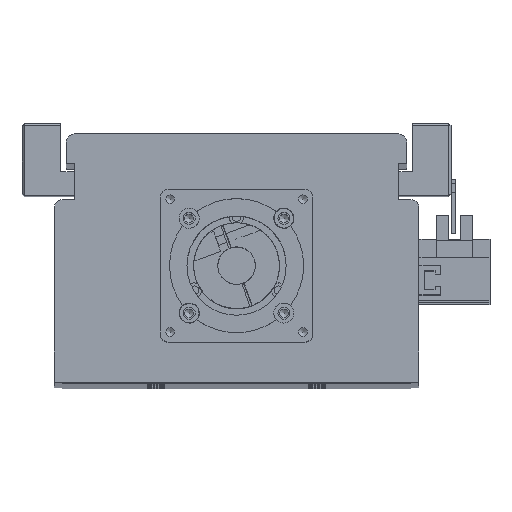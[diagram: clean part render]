
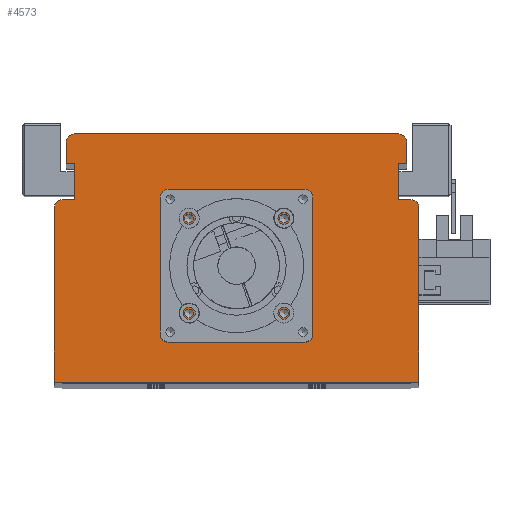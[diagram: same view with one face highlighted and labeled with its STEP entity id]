
A CAD part, top view. The second image highlights one B-rep face of the part: STEP entity #4573.
In plain terms, the highlighted planar face has unit normal (0, 0, 1).
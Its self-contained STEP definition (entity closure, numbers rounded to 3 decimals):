
#3131=CARTESIAN_POINT('',(19.321,61.5,1195.0));
#3132=VERTEX_POINT('',#3131);
#3133=CARTESIAN_POINT('',(17.7,61.5,1195.0));
#3134=DIRECTION('',(0.0,0.0,-1.0));
#3135=DIRECTION('',(1.0,0.0,0.0));
#3136=AXIS2_PLACEMENT_3D('',#3133,#3134,#3135);
#3137=CIRCLE('',#3136,1.621);
#3138=EDGE_CURVE('',#3132,#3132,#3137,.T.);
#3210=CARTESIAN_POINT('',(19.321,26.1,1195.0));
#3211=VERTEX_POINT('',#3210);
#3212=CARTESIAN_POINT('',(17.7,26.1,1195.0));
#3213=DIRECTION('',(0.0,0.0,-1.0));
#3214=DIRECTION('',(1.0,0.0,0.0));
#3215=AXIS2_PLACEMENT_3D('',#3212,#3213,#3214);
#3216=CIRCLE('',#3215,1.621);
#3217=EDGE_CURVE('',#3211,#3211,#3216,.T.);
#3289=CARTESIAN_POINT('',(-16.079,26.1,1195.0));
#3290=VERTEX_POINT('',#3289);
#3291=CARTESIAN_POINT('',(-17.7,26.1,1195.0));
#3292=DIRECTION('',(0.0,0.0,-1.0));
#3293=DIRECTION('',(1.0,0.0,0.0));
#3294=AXIS2_PLACEMENT_3D('',#3291,#3292,#3293);
#3295=CIRCLE('',#3294,1.621);
#3296=EDGE_CURVE('',#3290,#3290,#3295,.T.);
#3368=CARTESIAN_POINT('',(-16.079,61.5,1195.0));
#3369=VERTEX_POINT('',#3368);
#3370=CARTESIAN_POINT('',(-17.7,61.5,1195.0));
#3371=DIRECTION('',(0.0,0.0,-1.0));
#3372=DIRECTION('',(1.0,0.0,0.0));
#3373=AXIS2_PLACEMENT_3D('',#3370,#3371,#3372);
#3374=CIRCLE('',#3373,1.621);
#3375=EDGE_CURVE('',#3369,#3369,#3374,.T.);
#3409=CARTESIAN_POINT('',(26.5,43.8,1195.0));
#3410=VERTEX_POINT('',#3409);
#3411=CARTESIAN_POINT('',(24.5,43.8,1195.0));
#3412=DIRECTION('',(0.0,0.0,-1.0));
#3413=DIRECTION('',(1.0,0.0,0.0));
#3414=AXIS2_PLACEMENT_3D('',#3411,#3412,#3413);
#3415=CIRCLE('',#3414,2.0);
#3416=EDGE_CURVE('',#3410,#3410,#3415,.T.);
#3458=CARTESIAN_POINT('',(-22.5,43.8,1195.0));
#3459=VERTEX_POINT('',#3458);
#3460=CARTESIAN_POINT('',(-24.5,43.8,1195.0));
#3461=DIRECTION('',(0.0,0.0,-1.0));
#3462=DIRECTION('',(1.0,0.0,0.0));
#3463=AXIS2_PLACEMENT_3D('',#3460,#3461,#3462);
#3464=CIRCLE('',#3463,2.0);
#3465=EDGE_CURVE('',#3459,#3459,#3464,.T.);
#4389=CARTESIAN_POINT('',(21.05,43.8,1195.0));
#4390=VERTEX_POINT('',#4389);
#4391=CARTESIAN_POINT('',(0.0,43.8,1195.0));
#4392=DIRECTION('',(0.0,0.0,-1.0));
#4393=DIRECTION('',(-1.0,0.0,0.0));
#4394=AXIS2_PLACEMENT_3D('',#4391,#4392,#4393);
#4395=CIRCLE('',#4394,21.05);
#4396=EDGE_CURVE('',#4390,#4390,#4395,.T.);
#4413=CARTESIAN_POINT('',(0.,29.533,1195.0));
#4414=DIRECTION('',(0.0,0.0,1.0));
#4415=DIRECTION('',(1.0,0.0,0.0));
#4416=AXIS2_PLACEMENT_3D('',#4413,#4414,#4415);
#4417=PLANE('',#4416);
#4418=CARTESIAN_POINT('',(-65.,68.5,1195.0));
#4419=VERTEX_POINT('',#4418);
#4420=CARTESIAN_POINT('',(-60.5,68.5,1195.));
#4421=VERTEX_POINT('',#4420);
#4422=CARTESIAN_POINT('',(-65.,68.5,1195.0));
#4423=DIRECTION('',(1.0,0.0,0.0));
#4424=VECTOR('',#4423,4.5);
#4425=LINE('',#4422,#4424);
#4426=EDGE_CURVE('',#4419,#4421,#4425,.T.);
#4427=ORIENTED_EDGE('',*,*,#4426,.F.);
#4428=CARTESIAN_POINT('',(-68.,65.5,1195.0));
#4429=VERTEX_POINT('',#4428);
#4430=CARTESIAN_POINT('',(-65.,65.5,1195.0));
#4431=DIRECTION('',(0.0,0.0,-1.0));
#4432=DIRECTION('',(0.0,1.0,0.0));
#4433=AXIS2_PLACEMENT_3D('',#4430,#4431,#4432);
#4434=CIRCLE('',#4433,3.);
#4435=EDGE_CURVE('',#4429,#4419,#4434,.T.);
#4436=ORIENTED_EDGE('',*,*,#4435,.F.);
#4437=CARTESIAN_POINT('',(-68.0,0.5,1195.0));
#4438=VERTEX_POINT('',#4437);
#4439=CARTESIAN_POINT('',(-68.0,0.5,1195.0));
#4440=DIRECTION('',(0.0,1.0,0.0));
#4441=VECTOR('',#4440,65.0);
#4442=LINE('',#4439,#4441);
#4443=EDGE_CURVE('',#4438,#4429,#4442,.T.);
#4444=ORIENTED_EDGE('',*,*,#4443,.F.);
#4445=CARTESIAN_POINT('',(68.0,0.5,1195.0));
#4446=VERTEX_POINT('',#4445);
#4447=CARTESIAN_POINT('',(68.0,0.5,1195.0));
#4448=DIRECTION('',(-1.0,0.0,0.0));
#4449=VECTOR('',#4448,136.0);
#4450=LINE('',#4447,#4449);
#4451=EDGE_CURVE('',#4446,#4438,#4450,.T.);
#4452=ORIENTED_EDGE('',*,*,#4451,.F.);
#4453=CARTESIAN_POINT('',(68.0,65.5,1195.0));
#4454=VERTEX_POINT('',#4453);
#4455=CARTESIAN_POINT('',(68.0,65.5,1195.0));
#4456=DIRECTION('',(0.0,-1.0,0.0));
#4457=VECTOR('',#4456,65.0);
#4458=LINE('',#4455,#4457);
#4459=EDGE_CURVE('',#4454,#4446,#4458,.T.);
#4460=ORIENTED_EDGE('',*,*,#4459,.F.);
#4461=CARTESIAN_POINT('',(65.,68.5,1195.0));
#4462=VERTEX_POINT('',#4461);
#4463=CARTESIAN_POINT('',(65.,65.5,1195.0));
#4464=DIRECTION('',(0.0,0.0,-1.0));
#4465=DIRECTION('',(1.0,0.0,0.0));
#4466=AXIS2_PLACEMENT_3D('',#4463,#4464,#4465);
#4467=CIRCLE('',#4466,3.);
#4468=EDGE_CURVE('',#4462,#4454,#4467,.T.);
#4469=ORIENTED_EDGE('',*,*,#4468,.F.);
#4470=CARTESIAN_POINT('',(60.5,68.5,1195.));
#4471=VERTEX_POINT('',#4470);
#4472=CARTESIAN_POINT('',(60.5,68.5,1195.));
#4473=DIRECTION('',(1.0,0.0,0.0));
#4474=VECTOR('',#4473,4.5);
#4475=LINE('',#4472,#4474);
#4476=EDGE_CURVE('',#4471,#4462,#4475,.T.);
#4477=ORIENTED_EDGE('',*,*,#4476,.F.);
#4478=CARTESIAN_POINT('',(60.5,82.,1195.));
#4479=VERTEX_POINT('',#4478);
#4480=CARTESIAN_POINT('',(60.5,82.,1195.));
#4481=DIRECTION('',(0.0,-1.0,0.0));
#4482=VECTOR('',#4481,13.5);
#4483=LINE('',#4480,#4482);
#4484=EDGE_CURVE('',#4479,#4471,#4483,.T.);
#4485=ORIENTED_EDGE('',*,*,#4484,.F.);
#4486=CARTESIAN_POINT('',(63.5,82.,1195.));
#4487=VERTEX_POINT('',#4486);
#4488=CARTESIAN_POINT('',(63.5,82.,1195.));
#4489=DIRECTION('',(-1.0,0.0,0.0));
#4490=VECTOR('',#4489,3.0);
#4491=LINE('',#4488,#4490);
#4492=EDGE_CURVE('',#4487,#4479,#4491,.T.);
#4493=ORIENTED_EDGE('',*,*,#4492,.F.);
#4494=CARTESIAN_POINT('',(63.5,90.0,1195.));
#4495=VERTEX_POINT('',#4494);
#4496=CARTESIAN_POINT('',(63.5,90.0,1195.));
#4497=DIRECTION('',(0.0,-1.0,0.0));
#4498=VECTOR('',#4497,8.);
#4499=LINE('',#4496,#4498);
#4500=EDGE_CURVE('',#4495,#4487,#4499,.T.);
#4501=ORIENTED_EDGE('',*,*,#4500,.F.);
#4502=CARTESIAN_POINT('',(60.5,93.,1195.));
#4503=VERTEX_POINT('',#4502);
#4504=CARTESIAN_POINT('',(60.5,90.0,1195.0));
#4505=DIRECTION('',(0.0,0.0,-1.0));
#4506=DIRECTION('',(1.0,0.0,0.0));
#4507=AXIS2_PLACEMENT_3D('',#4504,#4505,#4506);
#4508=CIRCLE('',#4507,3.);
#4509=EDGE_CURVE('',#4503,#4495,#4508,.T.);
#4510=ORIENTED_EDGE('',*,*,#4509,.F.);
#4511=CARTESIAN_POINT('',(-60.5,93.0,1195.));
#4512=VERTEX_POINT('',#4511);
#4513=CARTESIAN_POINT('',(-60.5,93.0,1195.));
#4514=DIRECTION('',(1.0,0.0,0.0));
#4515=VECTOR('',#4514,121.0);
#4516=LINE('',#4513,#4515);
#4517=EDGE_CURVE('',#4512,#4503,#4516,.T.);
#4518=ORIENTED_EDGE('',*,*,#4517,.F.);
#4519=CARTESIAN_POINT('',(-63.5,90.0,1195.));
#4520=VERTEX_POINT('',#4519);
#4521=CARTESIAN_POINT('',(-60.5,90.0,1195.0));
#4522=DIRECTION('',(0.0,0.0,-1.0));
#4523=DIRECTION('',(0.0,1.0,0.0));
#4524=AXIS2_PLACEMENT_3D('',#4521,#4522,#4523);
#4525=CIRCLE('',#4524,3.);
#4526=EDGE_CURVE('',#4520,#4512,#4525,.T.);
#4527=ORIENTED_EDGE('',*,*,#4526,.F.);
#4528=CARTESIAN_POINT('',(-63.5,82.,1195.));
#4529=VERTEX_POINT('',#4528);
#4530=CARTESIAN_POINT('',(-63.5,82.,1195.));
#4531=DIRECTION('',(0.0,1.0,0.0));
#4532=VECTOR('',#4531,8.);
#4533=LINE('',#4530,#4532);
#4534=EDGE_CURVE('',#4529,#4520,#4533,.T.);
#4535=ORIENTED_EDGE('',*,*,#4534,.F.);
#4536=CARTESIAN_POINT('',(-60.5,82.,1195.));
#4537=VERTEX_POINT('',#4536);
#4538=CARTESIAN_POINT('',(-60.5,82.,1195.));
#4539=DIRECTION('',(-1.0,0.0,0.0));
#4540=VECTOR('',#4539,3.);
#4541=LINE('',#4538,#4540);
#4542=EDGE_CURVE('',#4537,#4529,#4541,.T.);
#4543=ORIENTED_EDGE('',*,*,#4542,.F.);
#4544=CARTESIAN_POINT('',(-60.5,68.5,1195.));
#4545=DIRECTION('',(0.0,1.0,0.0));
#4546=VECTOR('',#4545,13.5);
#4547=LINE('',#4544,#4546);
#4548=EDGE_CURVE('',#4421,#4537,#4547,.T.);
#4549=ORIENTED_EDGE('',*,*,#4548,.F.);
#4550=EDGE_LOOP('',(#4427,#4436,#4444,#4452,#4460,#4469,#4477,#4485,#4493,#4501,#4510,#4518,#4527,#4535,#4543,#4549));
#4551=FACE_OUTER_BOUND('',#4550,.T.);
#4552=ORIENTED_EDGE('',*,*,#3138,.T.);
#4553=EDGE_LOOP('',(#4552));
#4554=FACE_BOUND('',#4553,.T.);
#4555=ORIENTED_EDGE('',*,*,#3217,.T.);
#4556=EDGE_LOOP('',(#4555));
#4557=FACE_BOUND('',#4556,.T.);
#4558=ORIENTED_EDGE('',*,*,#3296,.T.);
#4559=EDGE_LOOP('',(#4558));
#4560=FACE_BOUND('',#4559,.T.);
#4561=ORIENTED_EDGE('',*,*,#3375,.T.);
#4562=EDGE_LOOP('',(#4561));
#4563=FACE_BOUND('',#4562,.T.);
#4564=ORIENTED_EDGE('',*,*,#3416,.T.);
#4565=EDGE_LOOP('',(#4564));
#4566=FACE_BOUND('',#4565,.T.);
#4567=ORIENTED_EDGE('',*,*,#3465,.T.);
#4568=EDGE_LOOP('',(#4567));
#4569=FACE_BOUND('',#4568,.T.);
#4570=ORIENTED_EDGE('',*,*,#4396,.T.);
#4571=EDGE_LOOP('',(#4570));
#4572=FACE_BOUND('',#4571,.T.);
#4573=ADVANCED_FACE('',(#4551,#4554,#4557,#4560,#4563,#4566,#4569,#4572),#4417,.T.);
